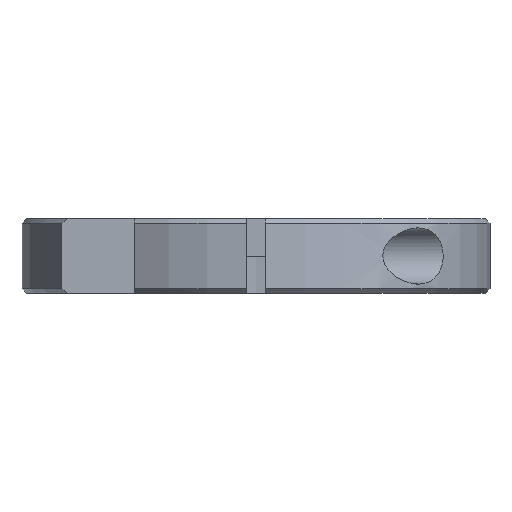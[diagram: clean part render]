
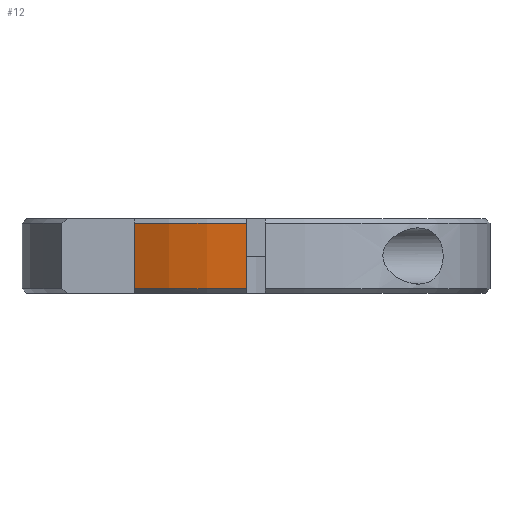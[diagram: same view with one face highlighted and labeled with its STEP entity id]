
A CAD part, left-side view. The second image highlights one B-rep face of the part: STEP entity #12.
In plain terms, the highlighted cylindrical face has radius 25 mm (diameter 50 mm), a partial arc.
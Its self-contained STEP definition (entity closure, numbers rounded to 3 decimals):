
#12 = ADVANCED_FACE ( 'NONE', ( #1273 ), #1189, .T. ) ;
#166 = VERTEX_POINT ( 'NONE', #944 ) ;
#168 = EDGE_LOOP ( 'NONE', ( #1202, #1101, #982, #1600 ) ) ;
#246 = VERTEX_POINT ( 'NONE', #932 ) ;
#290 = VERTEX_POINT ( 'NONE', #925 ) ;
#386 = VERTEX_POINT ( 'NONE', #1221 ) ;
#449 = AXIS2_PLACEMENT_3D ( 'NONE', #1070, #1066, #1036 ) ;
#463 = AXIS2_PLACEMENT_3D ( 'NONE', #1228, #1462, #1504 ) ;
#464 = CIRCLE ( 'NONE', #463, 25. ) ;
#481 = VECTOR ( 'NONE', #1480, 1000. ) ;
#530 = CIRCLE ( 'NONE', #449, 25. ) ;
#548 = VECTOR ( 'NONE', #1642, 1000. ) ;
#680 = EDGE_CURVE ( 'NONE', #290, #166, #530, .T. ) ;
#722 = EDGE_CURVE ( 'NONE', #386, #290, #1340, .T. ) ;
#743 = EDGE_CURVE ( 'NONE', #166, #246, #1641, .T. ) ;
#750 = EDGE_CURVE ( 'NONE', #246, #386, #464, .T. ) ;
#768 = AXIS2_PLACEMENT_3D ( 'NONE', #1227, #1224, #1011 ) ;
#925 = CARTESIAN_POINT ( 'NONE',  ( -24.98, 1., 3.5 ) ) ;
#932 = CARTESIAN_POINT ( 'NONE',  ( -21.354, 13., -3.5 ) ) ;
#944 = CARTESIAN_POINT ( 'NONE',  ( -21.354, 13., 3.5 ) ) ;
#982 = ORIENTED_EDGE ( 'NONE', *, *, #750, .T. ) ;
#1011 = DIRECTION ( 'NONE',  ( -1., 0., 0. ) ) ;
#1036 = DIRECTION ( 'NONE',  ( 1., 0., 0. ) ) ;
#1066 = DIRECTION ( 'NONE',  ( 0., 0., -1. ) ) ;
#1070 = CARTESIAN_POINT ( 'NONE',  ( 0., 0., 3.5 ) ) ;
#1101 = ORIENTED_EDGE ( 'NONE', *, *, #743, .T. ) ;
#1189 = CYLINDRICAL_SURFACE ( 'NONE', #768, 25. ) ;
#1202 = ORIENTED_EDGE ( 'NONE', *, *, #680, .T. ) ;
#1221 = CARTESIAN_POINT ( 'NONE',  ( -24.98, 1., -3.5 ) ) ;
#1224 = DIRECTION ( 'NONE',  ( 0., 0., -1. ) ) ;
#1227 = CARTESIAN_POINT ( 'NONE',  ( 0., 0., 4. ) ) ;
#1228 = CARTESIAN_POINT ( 'NONE',  ( 0., 0., -3.5 ) ) ;
#1273 = FACE_OUTER_BOUND ( 'NONE', #168, .T. ) ;
#1340 = LINE ( 'NONE', #1481, #548 ) ;
#1462 = DIRECTION ( 'NONE',  ( 0., 0., 1. ) ) ;
#1480 = DIRECTION ( 'NONE',  ( 0., 0., -1. ) ) ;
#1481 = CARTESIAN_POINT ( 'NONE',  ( -24.98, 1., 4. ) ) ;
#1504 = DIRECTION ( 'NONE',  ( 1., 0., 0. ) ) ;
#1600 = ORIENTED_EDGE ( 'NONE', *, *, #722, .T. ) ;
#1639 = CARTESIAN_POINT ( 'NONE',  ( -21.354, 13., 4. ) ) ;
#1641 = LINE ( 'NONE', #1639, #481 ) ;
#1642 = DIRECTION ( 'NONE',  ( 0., 0., 1. ) ) ;
